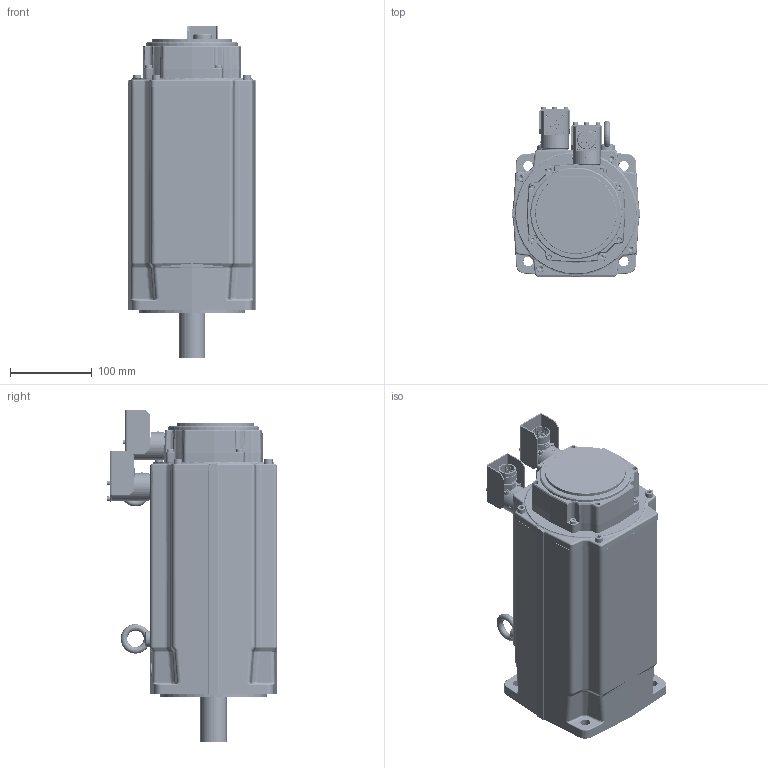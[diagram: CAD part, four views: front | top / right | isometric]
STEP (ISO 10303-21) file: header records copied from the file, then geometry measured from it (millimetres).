
FILE_DESCRIPTION((''),'2;1');
FILE_NAME('EY860EAR7010_ASM','2016-11-14T',('pf73167'),(''),'PRO/ENGINEER BY PARAMETRIC TECHNOLOGY CORPORATION, 2009400','PRO/ENGINEER BY PARAMETRIC TECHNOLOGY CORPORATION, 2009400','');
FILE_SCHEMA(('CONFIG_CONTROL_DESIGN'));
Length unit declared in the file: millimetre
Products named in the file (52): 344441P0017; 5116P1319; 1150P0512; 301026P0003; 344463P0003; 344232P0004; 344212P0003; 344232P0004_ASM; 344461R0003_ASM; 5116P1327; 1711P0002; 1640P0001; 5340P0036; 344440P0003; 344231P0004; BOB_344465R6000; 344465R6000_ASM; 344466R6000_ASM; SURMOULAGE_344467R6001; 344467R6001_ASM; 5320P0029; 1150P0610; 1613P0034; 1613P0035; 282280P0012; 220005P1002; 344509P0001; 1643P0104; 1143P0405; 5340P0071; 344191P0021; 1190P0001; 6942P0012; 1143P0510; 345359P0002; 5340P0124; 5340P0125; 1150P0204; 345359P0001; 1170P0042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
Assembly tree (117 placements, depth 5):
  EY860EAR7010_ASM
    344441P0017
    5116P1319
    1150P0512  x3
    301026P0003
    344461R0003_ASM
      344463P0003
      344232P0004_ASM
        344232P0004
        344212P0003  x2
    5116P1327
    1711P0002
    1640P0001  x3
    5340P0036
    344467R6001_ASM
      344440P0003
      344466R6000_ASM
        344465R6000_ASM
          344231P0004
          BOB_344465R6000
      SURMOULAGE_344467R6001
    5320P0029
    1150P0610  x4
    1613P0034  x2
    1613P0035  x2
    282280P0012
    220005P1002
    344509P0001
    1643P0104  x3
    1143P0405  x3
    5340P0071
    344191P0021
    1190P0001  x2
    6942P0012
    1143P0510  x4
    345359R1010_800_ASM
      345359P0002
      5340P0124
      5340P0125
      1150P0204  x8
      345359P0001
      1170P0042  x4
      220132P1010_ASM
        220132P1010_0001
        220132P1010_0002
        220132P0111  x4
        220132P0120  x3
      345359P0003
      1150P0305  x3
    345359R1020_800_ASM
      345359P0002
      5340P0124
      5340P0125
      1150P0204  x8
      345359P0001
      1170P0042  x4
      220132P1020
      220132P0112  x12
      345359P0003
      1150P0305  x3
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Bounding box: 157 x 207.7 x 406 mm (x, y, z)
Volume: 5764667.7 mm3; surface area: 1139115.2 mm2
Topology: 116 solids, 145 shells, 6064 faces, 14203 edges, 8668 vertices
Faces by surface type: plane 2142, cylinder 1938, cone 916, bspline 659, torus 357, sphere 52
Entity records: 152225 total; most frequent: CARTESIAN_POINT 51588, ORIENTED_EDGE 20968, DIRECTION 20281, EDGE_CURVE 10484, AXIS2_PLACEMENT_3D 7612, VERTEX_POINT 6578, VECTOR 5057, LINE 5057
